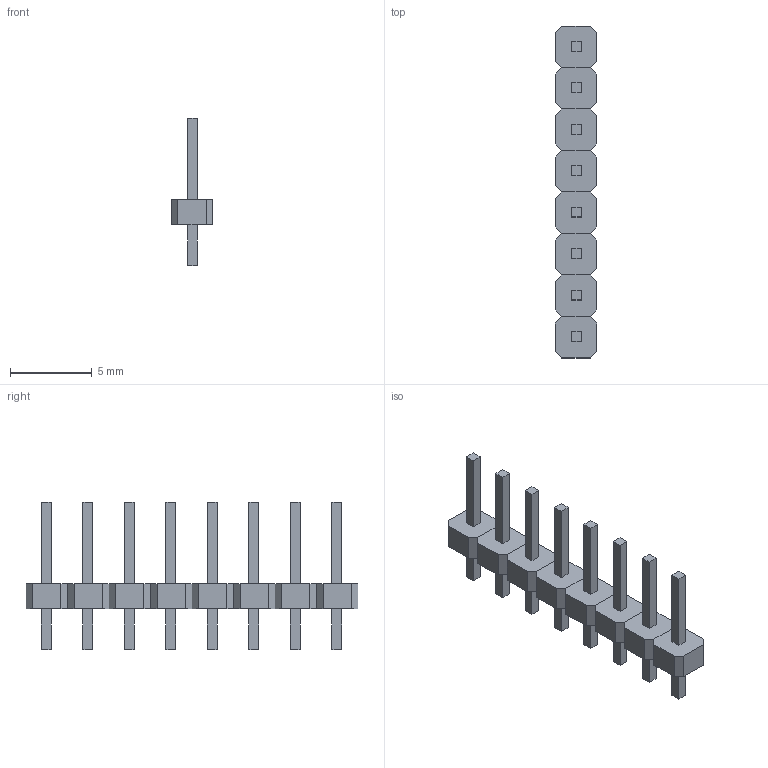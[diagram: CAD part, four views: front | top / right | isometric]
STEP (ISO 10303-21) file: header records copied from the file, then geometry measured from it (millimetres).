
FILE_DESCRIPTION(/* description */ (''),/* implementation_level */ '2;1');
FILE_NAME(/* name */ 'PinHeader-01x08_P2.54mm_Vertical_THT.step',/* time_stamp */ '2026-06-03T06:14:13+03:00',/* author */ (''),/* organization */ (''),/* preprocessor_version */ 'ST-DEVELOPER v20.1',/* originating_system */ 'Autodesk Translation Framework v15.8.0.0',/* authorisation */ '');
FILE_SCHEMA (('AUTOMOTIVE_DESIGN { 1 0 10303 214 3 1 1 }'));
Length unit declared in the file: millimetre
Products named in the file (3): PinHeader-01x08_P2.54mm_Vertical_THT; top_pcb 1.8.1; top_pcb 1.8.2
Assembly tree (2 placements, depth 2):
  PinHeader-01x08_P2.54mm_Vertical_THT
    top_pcb 1.8.1
    top_pcb 1.8.2
Bounding box: 2.54 x 20.32 x 9 mm (x, y, z)
Volume: 97 mm3; surface area: 355 mm2
Topology: 8 solids, 8 shells, 160 faces, 384 edges, 256 vertices
Faces by surface type: plane 160
Entity records: 4627 total; most frequent: CARTESIAN_POINT 805, ORIENTED_EDGE 768, DIRECTION 714, LINE 384, VECTOR 384, EDGE_CURVE 384, VERTEX_POINT 256, EDGE_LOOP 176
